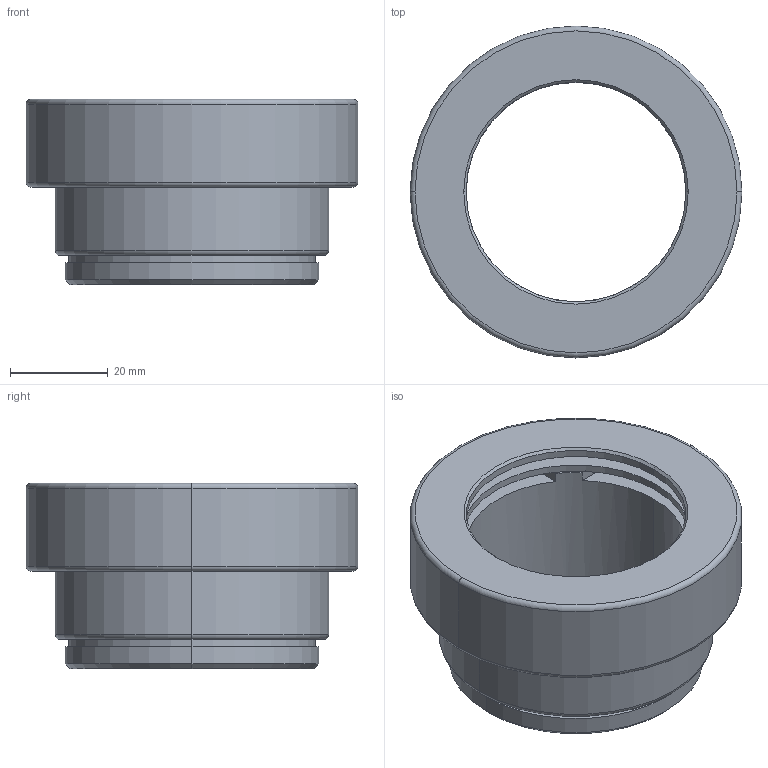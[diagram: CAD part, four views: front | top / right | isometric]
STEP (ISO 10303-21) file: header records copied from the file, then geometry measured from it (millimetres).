
FILE_DESCRIPTION (( 'STEP AP203' ), '1' );
FILE_NAME ('7MMC151B翐醱噩殤.STEP', '2019-12-04T03:17:29', ( '' ), ( '' ), 'SwSTEP 2.0', 'SolidWorks 2018', '' );
FILE_SCHEMA (( 'CONFIG_CONTROL_DESIGN' ));
Length unit declared in the file: millimetre
Products named in the file (1): 7MMC151B翐醱噩殤
Bounding box: 68 x 68 x 38 mm (x, y, z)
Volume: 46543.7 mm3; surface area: 25759.3 mm2
Topology: 3 solids, 3 shells, 63 faces, 142 edges, 90 vertices
Faces by surface type: cylinder 26, plane 23, cone 8, torus 6
Entity records: 1869 total; most frequent: DIRECTION 350, CARTESIAN_POINT 296, ORIENTED_EDGE 284, AXIS2_PLACEMENT_3D 144, EDGE_CURVE 142, VERTEX_POINT 90, CIRCLE 80, EDGE_LOOP 74
